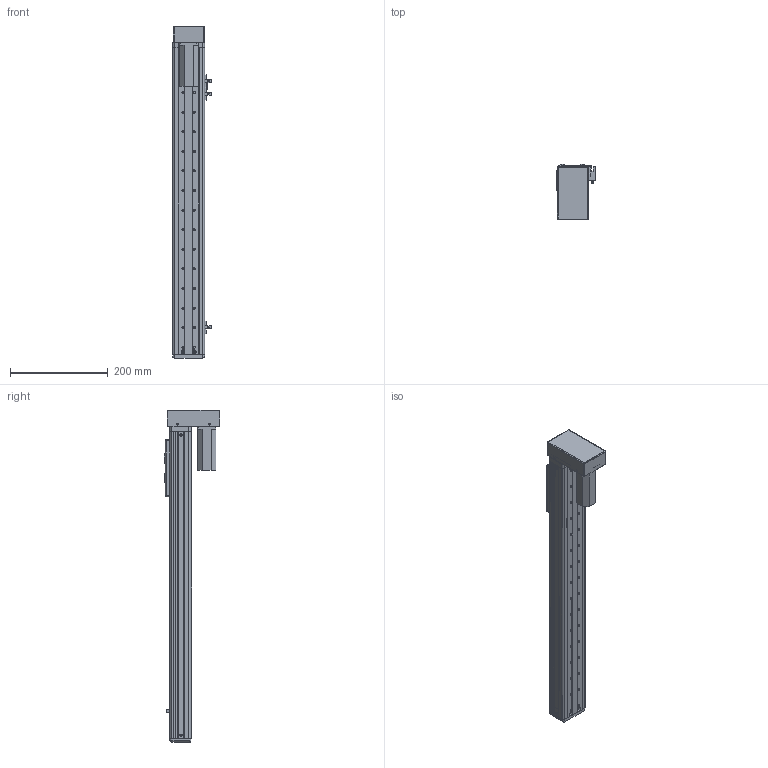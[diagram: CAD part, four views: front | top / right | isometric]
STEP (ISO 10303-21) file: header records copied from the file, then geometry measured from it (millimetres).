
FILE_DESCRIPTION (( 'STEP AP203' ), '1' );
FILE_NAME ('RY60F-L1210-300-BK.SLDASM_450.step', '2021-03-02T06:47:07', ( '盈信电脑' ), ( '东莞市道滘镇水果街19号' ), 'SwSTEP 2.0', 'SolidWorks 2012', '' );
FILE_SCHEMA (( 'CONFIG_CONTROL_DESIGN' ));
Length unit declared in the file: millimetre
Products named in the file (17): RY60F-狟殏萇儂欶(100W); RY60F-L1210-300-BK.SLDASM_450; RY60F-转折电机端丝杆安装座; 侂狟100W; RY60F-狟殏萇儂假蚾啣(100W PCD45 M3); 俋噤12酗38滅袉蝶; RY60F-300-蛌殏滅鳥詩え-BK_450; 俋噤12酗29滅袉蝶; RY50F-300-MR15W蛌殏絳寢-BK_450; 覜茼ん672; RY60F-祥凄詩滅鳥裔; RY50-60詩湍揤啣; RY60F-L1210-300-BK蛌殏俋褲_450; RY60F-臏賑輸; RY60F-浮动端丝杆支撑座; RY60F-滅鳥詩え盓殤; RY60F-嫖萇羲壽結え
Assembly tree (20 placements, depth 2):
  RY60F-L1210-300-BK.SLDASM_450
    RY60F-臏賑輸
    RY60F-浮动端丝杆支撑座
    RY60F-滅鳥詩え盓殤
    RY60F-嫖萇羲壽結え
    RY50-60詩湍揤啣  x2
    RY60F-祥凄詩滅鳥裔
    RY60F-L1210-300-BK蛌殏俋褲_450  x2
    覜茼ん672  x3
    RY60F-300-蛌殏滅鳥詩え-BK_450
    RY50F-300-MR15W蛌殏絳寢-BK_450
    俋噤12酗29滅袉蝶
    俋噤12酗38滅袉蝶
    侂狟100W
    RY60F-转折电机端丝杆安装座
    RY60F-狟殏萇儂假蚾啣(100W PCD45 M3)
    RY60F-狟殏萇儂欶(100W)
Bounding box: 78.7 x 114 x 678 mm (x, y, z)
Volume: 696242.3 mm3; surface area: 475226.2 mm2
Topology: 20 solids, 21 shells, 1065 faces, 2902 edges, 1839 vertices
Faces by surface type: cylinder 490, plane 463, cone 94, bspline 18
Entity records: 32562 total; most frequent: CARTESIAN_POINT 6290, DIRECTION 5181, ORIENTED_EDGE 4968, EDGE_CURVE 2484, AXIS2_PLACEMENT_3D 1850, VERTEX_POINT 1615, LINE 1481, VECTOR 1481
